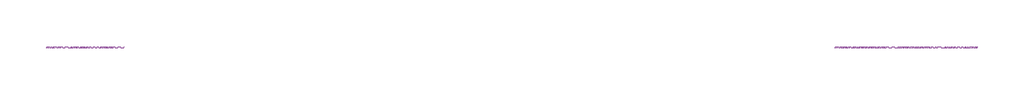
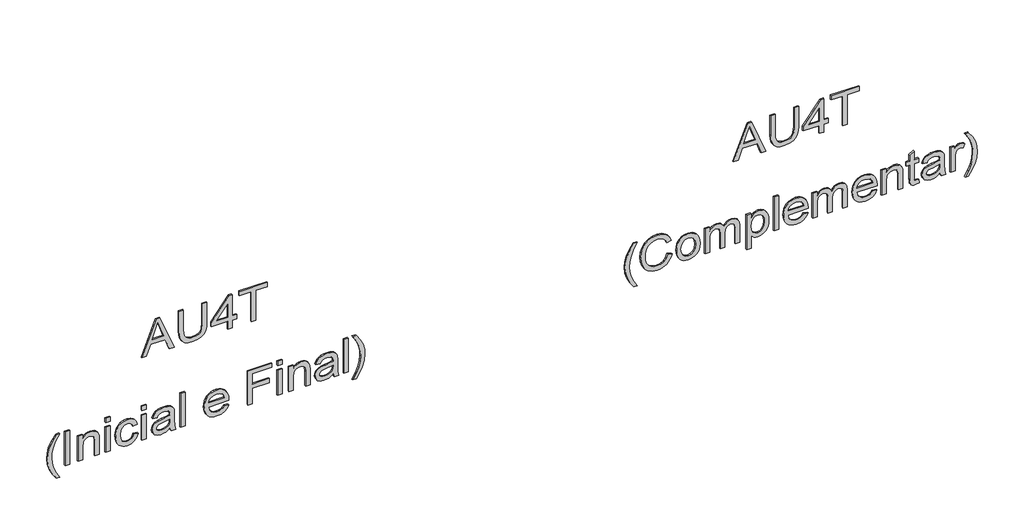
# One storey, part 5 of 14: 2 proxies.
"""IFC4 building model written with IfcOpenShell, lengths in millimetres."""

import ifcopenshell
import ifcopenshell.guid

model = None  # the IFC model being written
_history = None  # IfcOwnerHistory: only IFC2X3 demands one
_inside = {}  # id of a spatial element -> (the spatial element, [elements in it])
_under = {}  # id of a project, library or spatial element -> (it, [spatial elements below it])
_declared = {}  # id of a project -> (the project, [libraries it declares])
_typed = {}  # id of a type object -> (the type object, [elements of that type])
_made_of = {}  # id of a material, layer set ... -> (it, [elements and type objects made of it])


def new_model(schema):
    """Start an empty IFC model of exactly this schema.

    Asked for "IFC4X3", IfcOpenShell would pick the latest addendum, in which some entities
    have other attributes; the version numbers below select the first issue.
    IFC2X3 requires an IfcOwnerHistory on every rooted entity: one is made here for all.
    """
    global model, _history
    if schema == "IFC4X3":
        model = ifcopenshell.file(schema_version=(4, 3, 0, 0))
    else:
        model = ifcopenshell.file(schema=schema)
    _inside.clear()
    _under.clear()
    _declared.clear()
    _typed.clear()
    _made_of.clear()
    _history = None
    if model.schema == "IFC2X3":
        org = make("IfcOrganization", Name="unknown")
        user = make(
            "IfcPersonAndOrganization",
            ThePerson=make("IfcPerson", FamilyName="unknown"),
            TheOrganization=org,
        )
        app = make(
            "IfcApplication",
            ApplicationDeveloper=org,
            Version="unknown",
            ApplicationFullName="unknown",
            ApplicationIdentifier="unknown",
        )
        _history = make(
            "IfcOwnerHistory",
            OwningUser=user,
            OwningApplication=app,
            ChangeAction="ADDED",
            CreationDate=0,
        )
    return model


def make(cls, **values):
    """One entity of the class cls with the attributes given. An attribute that is None is left unset."""
    return model.create_entity(
        cls, **{name: value for name, value in values.items() if value is not None}
    )


def rooted(cls, **values):
    """An entity with a GlobalId (a new one), such as an element, a storey or a relation."""
    return make(cls, GlobalId=ifcopenshell.guid.new(), OwnerHistory=_history, **values)


def si_unit(unit_type, name, prefix=None):
    """IfcSIUnit, for example si_unit("LENGTHUNIT", "METRE", prefix="MILLI")."""
    return make("IfcSIUnit", UnitType=unit_type, Prefix=prefix, Name=name)


def assignment(units):
    """IfcUnitAssignment: the units of a project."""
    return None if units is None else make("IfcUnitAssignment", Units=units)


def point(xyz):
    """IfcCartesianPoint."""
    return None if xyz is None else make("IfcCartesianPoint", Coordinates=xyz)


def direction(xyz):
    """IfcDirection."""
    return None if xyz is None else make("IfcDirection", DirectionRatios=xyz)


def frame(location, z_axis=None, x_axis=None):
    """IfcAxis2Placement3D, a coordinate frame: its origin and axes. An axis left out is left unset."""
    return make(
        "IfcAxis2Placement3D",
        Location=point(location),
        Axis=direction(z_axis),
        RefDirection=direction(x_axis),
    )


def origin():
    """The frame at (0, 0, 0) with its axes left unset."""
    return frame((0.0, 0.0, 0.0))


def place(relative_to, where):
    """IfcLocalPlacement: puts the frame where relative to a parent placement (None: the world)."""
    return make(
        "IfcLocalPlacement", PlacementRelTo=relative_to, RelativePlacement=where
    )


def context(
    kind, dimensions, precision=None, world=None, true_north=None, identifier=None
):
    """IfcGeometricRepresentationContext, for example the 3D "Model" context."""
    return make(
        "IfcGeometricRepresentationContext",
        ContextIdentifier=identifier,
        ContextType=kind,
        CoordinateSpaceDimension=dimensions,
        Precision=precision,
        WorldCoordinateSystem=world,
        TrueNorth=true_north,
    )


def project(units=None, contexts=None):
    """IfcProject with its units and contexts."""
    return rooted(
        "IfcProject",
        Name="project",
        RepresentationContexts=contexts,
        UnitsInContext=assignment(units),
    )


def spatial(cls, under=None, at=None, **own):
    """A site, building, storey or space (cls), placed at a placement, below another one or the project."""
    s = rooted(cls, ObjectPlacement=at, **own)
    if under is not None:
        _under.setdefault(under.id(), (under, []))[1].append(s)
    return s


def polyline(points):
    """IfcPolyline through the points."""
    return make("IfcPolyline", Points=[point(p) for p in points])


def outline(outer, holes=None, kind="AREA"):
    """IfcArbitraryClosedProfileDef: a profile drawn as a closed curve; with holes, ...WithVoids."""
    if holes is None:
        return make("IfcArbitraryClosedProfileDef", ProfileType=kind, OuterCurve=outer)
    return make(
        "IfcArbitraryProfileDefWithVoids",
        ProfileType=kind,
        OuterCurve=outer,
        InnerCurves=holes,
    )


def extrude(swept, where, along, depth):
    """IfcExtrudedAreaSolid: the profile swept, set in the frame where, extruded along a direction by depth."""
    return make(
        "IfcExtrudedAreaSolid",
        SweptArea=swept,
        Position=where,
        ExtrudedDirection=direction(along),
        Depth=depth,
    )


def shape(context_of_items, identifier, shape_type, items):
    """IfcShapeRepresentation: the items that make up one representation, for example the "Body"."""
    return make(
        "IfcShapeRepresentation",
        ContextOfItems=context_of_items,
        RepresentationIdentifier=identifier,
        RepresentationType=shape_type,
        Items=items,
    )


def made_of(thing, what):
    """Note that an element or type object is made of a material, layer set ...; save() writes the relation."""
    if what is not None:
        _made_of.setdefault(what.id(), (what, []))[1].append(thing)
    return thing


def element(
    cls,
    number,
    at=None,
    inside=None,
    cuts=None,
    type_object=None,
    material=None,
    context=None,
    identifier="Body",
    shape_type=None,
    held_by="IfcProductDefinitionShape",
    body=None,
    shapes=None,
    **own,
):
    """One element of the class cls, such as IfcWall. Its Tag is "e" and its number.

    at: its placement. inside: the storey or other place that contains it. cuts: it is an
    opening in that element (IfcRelVoidsElement). A single representation is given by context,
    identifier, shape_type and body (its items); several are given by shapes. held_by: the class
    of the entity that holds the representations. save() writes the other relations.
    """
    e = rooted(cls, Tag="e%d" % number, ObjectPlacement=at, **own)
    if body is not None:
        shapes = [shape(context, identifier, shape_type, body)]
    if shapes is not None:
        e.Representation = make(held_by, Representations=shapes)
    if inside is not None:
        _inside.setdefault(inside.id(), (inside, []))[1].append(e)
    if cuts is not None:
        rooted(
            "IfcRelVoidsElement", RelatingBuildingElement=cuts, RelatedOpeningElement=e
        )
    if type_object is not None:
        _typed.setdefault(type_object.id(), (type_object, []))[1].append(e)
    return made_of(e, material)


def aggregate(whole, parts):
    """IfcRelAggregates: a whole, such as a stair, and the parts it consists of."""
    return rooted("IfcRelAggregates", RelatingObject=whole, RelatedObjects=parts)


def save(model, path):
    """Write the relations noted so far, then the file.

    IfcRelAggregates (storeys below a building ...), IfcRelContainedInSpatialStructure (elements
    in a storey), IfcRelDefinesByType, IfcRelAssociatesMaterial and IfcRelDeclares: one each for
    every whole, place, type object, material and project.
    """
    for whole, parts in _under.values():
        aggregate(whole, parts)
    for where, things in _inside.values():
        rooted(
            "IfcRelContainedInSpatialStructure",
            RelatedElements=things,
            RelatingStructure=where,
        )
    for kind, things in _typed.values():
        rooted("IfcRelDefinesByType", RelatedObjects=things, RelatingType=kind)
    for what, things in _made_of.values():
        rooted("IfcRelAssociatesMaterial", RelatedObjects=things, RelatingMaterial=what)
    for by, libraries in _declared.values():
        rooted("IfcRelDeclares", RelatingContext=by, RelatedDefinitions=libraries)
    model.write(path)


model = new_model("IFC4")

# Units and contexts
model_context = context("Model", 3, world=origin())
ifc_project = project(units=[si_unit("LENGTHUNIT", "METRE", prefix="MILLI")], contexts=[model_context])

# Site, building, storey
site = spatial("IfcSite", under=ifc_project)
building = spatial("IfcBuilding", under=site)
storey = spatial("IfcBuildingStorey", under=building, Name="04 - Marelli - Planta Baixa - Painéis de Vidro", Elevation=36000.0)

# Proxies
placement = place(None, origin())
element("IfcBuildingElementProxy", 1, Name="300mm Arial", ObjectType="300mm Arial", at=placement, inside=storey, context=model_context, shape_type="SweptSolid", body=[
    extrude(outline(polyline([(42065.9244535, 33333.7166072), (42065.9244535, 33373.5214391), (42160.1022443, 33407.9551938), (42160.1022443, 33532.078579), (42065.9244535, 33566.5859102), (42065.9244535, 33606.390742), (42367.293384, 33486.0933296), (42367.293384, 33454.0140196), (42065.9244535, 33333.7166072)]), holes=[polyline([(42197.7733606, 33421.7875569), (42278.3395176, 33451.2916929), (42329.6222677, 33470.0536746), (42271.8647944, 33491.1701012), (42197.7733606, 33518.3197924), (42197.7733606, 33421.7875569)])]), frame((0.0, 8778.3159498, 0.0), z_axis=(0.0, 1.0, 0.0), x_axis=(0.0, 0.0, 1.0)), (0.0, 0.0, 1.0), 10.0),
    extrude(outline(polyline([(42367.293384, 33844.4103929), (42194.7567282, 33844.4103929), (42147.5942565, 33839.6463211), (42130.8556257, 33833.6912313), (42118.6787316, 33825.3541056), (42110.0197092, 33814.2210767), (42103.8346931, 33799.8782774), (42098.8866803, 33761.5633676), (42101.3882779, 33737.3935205), (42108.8930706, 33717.2703754), (42121.0055853, 33701.8377257), (42137.3303488, 33691.7393649), (42160.9023876, 33686.1659527), (42194.7567282, 33684.3081486), (42367.293384, 33684.3081486), (42367.293384, 33646.6370323), (42193.4323531, 33646.6370323), (42150.6568741, 33649.4973148), (42117.9797559, 33658.0781624), (42093.6167707, 33673.3452652), (42075.783691, 33696.2643135), (42064.8575957, 33726.8445043), (42061.215564, 33765.0950348), (42065.4002217, 33804.2008909), (42077.9541948, 33834.9926138), (42097.176029, 33857.5253861), (42121.3642702, 33871.8543898), (42152.7170132, 33879.5247294), (42193.4323531, 33882.0815092), (42367.293384, 33882.0815092), (42367.293384, 33844.4103929)])), frame((0.0, 8778.3159498, 0.0), z_axis=(0.0, 1.0, 0.0), x_axis=(0.0, 0.0, 1.0)), (0.0, 0.0, 1.0), 10.0),
    extrude(outline(polyline([(42065.9244535, 34056.3104221), (42065.9244535, 34093.9815385), (42136.5577966, 34093.9815385), (42136.5577966, 34131.6526548), (42174.2289129, 34131.6526548), (42174.2289129, 34093.9815385), (42362.5844944, 34093.9815385), (42362.5844944, 34065.7282012), (42174.2289129, 33919.7526255), (42136.5577966, 33919.7526255), (42136.5577966, 34056.3104221), (42065.9244535, 34056.3104221)]), holes=[polyline([(42174.2289129, 34056.3104221), (42174.2289129, 33966.1057569), (42290.6267762, 34056.3104221), (42174.2289129, 34056.3104221)])]), frame((0.0, 8778.3159498, 0.0), z_axis=(0.0, 1.0, 0.0), x_axis=(0.0, 0.0, 1.0)), (0.0, 0.0, 1.0), 10.0),
    extrude(outline(polyline([(42065.9244535, 34254.0837828), (42065.9244535, 34291.7548991), (42329.6222677, 34291.7548991), (42329.6222677, 34390.6415794), (42367.293384, 34390.6415794), (42367.293384, 34155.1971024), (42329.6222677, 34155.1971024), (42329.6222677, 34254.0837828), (42065.9244535, 34254.0837828)])), frame((0.0, 8778.3159498, 0.0), z_axis=(0.0, 1.0, 0.0), x_axis=(0.0, 0.0, 1.0)), (0.0, 0.0, 1.0), 10.0),
    extrude(outline(polyline([(41249.3155348, 32615.3902234), (41249.3155348, 32643.6435607), (41297.5540614, 32614.8016122), (41345.8109821, 32594.2002205), (41394.0862969, 32581.8393855), (41442.3800058, 32577.7191071), (41480.2534572, 32580.091946), (41517.9429677, 32587.2104626), (41575.7740173, 32608.4004655), (41635.4444769, 32643.6435607), (41635.4444769, 32615.3902234), (41584.934279, 32580.6989513), (41534.2033518, 32556.3819514), (41489.4137189, 32544.131481), (41442.600735, 32540.0479908), (41389.2210575, 32545.5110385), (41337.68079, 32561.9001813), (41290.2791949, 32586.1987871), (41249.3155348, 32615.3902234)])), frame((0.0, 8778.3159498, 0.0), z_axis=(0.0, 1.0, 0.0), x_axis=(0.0, 0.0, 1.0)), (0.0, 0.0, 1.0), 10.0),
    extrude(outline(polyline([(32728.4035724, 8778.3159498), (32690.732456, 8778.3159498), (32690.732456, 8788.3159498), (32728.4035724, 8788.3159498), (32728.4035724, 8778.3159498)])), frame((0.0, 0.0, 41334.0755465), z_axis=(0.0, 0.0, 1.0), x_axis=(1.0, 0.0, 0.0)), (0.0, 0.0, 1.0), 301.3689304),
    extrude(outline(polyline([(41334.0755465, 32799.0369154), (41334.0755465, 32836.7080317), (41451.5034793, 32836.7080317), (41486.2131456, 32841.003054), (41498.5877762, 32846.3718319), (41507.6422718, 32853.8881209), (41518.7339139, 32872.6960879), (41522.431128, 32894.7598106), (41520.7848561, 32908.6565529), (41515.8460403, 32920.6219148), (41508.1481095, 32929.9569205), (41498.2244927, 32935.962594), (41464.8943839, 32940.3036016), (41334.0755465, 32940.3036016), (41334.0755465, 32977.9747179), (41469.9711555, 32977.9747179), (41506.391473, 32975.9881551), (41534.0929872, 32964.6941779), (41544.6328064, 32954.5958171), (41552.9285454, 32940.4139662), (41558.3088196, 32923.4086209), (41560.1022443, 32904.8397772), (41557.8765582, 32883.8613065), (41551.1995, 32865.513192), (41540.0710697, 32849.7954337), (41524.4912672, 32836.7080317), (41555.3933548, 32836.7080317), (41555.3933548, 32799.0369154), (41334.0755465, 32799.0369154)])), frame((0.0, 8778.3159498, 0.0), z_axis=(0.0, 1.0, 0.0), x_axis=(0.0, 0.0, 1.0)), (0.0, 0.0, 1.0), 10.0),
    extrude(outline(polyline([(33067.4436191, 8778.3159498), (33029.7725028, 8778.3159498), (33029.7725028, 8788.3159498), (33067.4436191, 8788.3159498), (33067.4436191, 8778.3159498)])), frame((0.0, 0.0, 41597.7733606), z_axis=(0.0, 0.0, 1.0), x_axis=(1.0, 0.0, 0.0)), (0.0, 0.0, 1.0), 37.6711163),
    extrude(outline(polyline([(33067.4436191, 8778.3159498), (33029.7725028, 8778.3159498), (33029.7725028, 8788.3159498), (33067.4436191, 8788.3159498), (33067.4436191, 8778.3159498)])), frame((0.0, 0.0, 41334.0755465), z_axis=(0.0, 0.0, 1.0), x_axis=(1.0, 0.0, 0.0)), (0.0, 0.0, 1.0), 221.3178083),
    extrude(outline(polyline([(41414.1266686, 33265.2169797), (41393.2493654, 33258.7882419), (41378.5892679, 33247.1539738), (41369.9256469, 33231.160304), (41367.0377732, 33211.6533612), (41371.6638893, 33187.6214699), (41385.5422376, 33168.647956), (41409.6477053, 33156.3147121), (41444.9551798, 33152.2036308), (41479.7936048, 33156.4066826), (41503.816299, 33169.015838), (41517.7774208, 33188.3388398), (41522.431128, 33212.6834308), (41520.0674862, 33229.1737412), (41512.9765607, 33243.0336954), (41501.1951398, 33253.6746821), (41484.7600117, 33260.5080902), (41489.4689012, 33298.1792065), (41519.4512838, 33287.9244959), (41541.7081445, 33269.6683519), (41555.5037194, 33244.2201148), (41560.1022443, 33212.3891252), (41556.7545181, 33185.7452717), (41546.7113397, 33161.1431633), (41529.9635118, 33140.5785598), (41506.5018376, 33126.0472209), (41477.448357, 33117.4111911), (41443.9251102, 33114.5325145), (41417.8675687, 33116.2178739), (41395.024396, 33121.2739521), (41375.3955923, 33129.700749), (41358.9811575, 33141.4982647), (41346.0248135, 33156.0732895), (41336.7702821, 33172.8326137), (41331.2175632, 33191.7762372), (41329.3666569, 33212.90416), (41334.6733547, 33245.535293), (41350.593448, 33272.648196), (41375.9129264, 33292.3850651), (41409.4177791, 33302.888096), (41414.1266686, 33265.2169797)])), frame((0.0, 8778.3159498, 0.0), z_axis=(0.0, 1.0, 0.0), x_axis=(0.0, 0.0, 1.0)), (0.0, 0.0, 1.0), 10.0),
    extrude(outline(polyline([(33373.5214391, 8778.3159498), (33335.8503228, 8778.3159498), (33335.8503228, 8788.3159498), (33373.5214391, 8788.3159498), (33373.5214391, 8778.3159498)])), frame((0.0, 0.0, 41334.0755465), z_axis=(0.0, 0.0, 1.0), x_axis=(1.0, 0.0, 0.0)), (0.0, 0.0, 1.0), 221.3178083),
    extrude(outline(polyline([(33373.5214391, 8778.3159498), (33335.8503228, 8778.3159498), (33335.8503228, 8788.3159498), (33373.5214391, 8788.3159498), (33373.5214391, 8778.3159498)])), frame((0.0, 0.0, 41597.7733606), z_axis=(0.0, 0.0, 1.0), x_axis=(1.0, 0.0, 0.0)), (0.0, 0.0, 1.0), 37.6711163),
    extrude(outline(polyline([(41362.3288837, 33571.2947997), (41334.0755465, 33580.7125788), (41334.0755465, 33618.3836951), (41365.7501862, 33610.8789024), (41431.1963932, 33608.965916), (41478.0645594, 33608.965916), (41511.0267861, 33607.126506), (41525.1442577, 33602.5831634), (41536.5945848, 33595.5750114), (41545.856014, 33585.0076011), (41553.406792, 33569.7864835), (41558.4283812, 33549.598959), (41560.1022443, 33524.1323279), (41558.207652, 33497.5804449), (41552.5238752, 33474.4314704), (41543.3452194, 33455.5039417), (41530.9659903, 33441.6163964), (41514.7791825, 33431.8583265), (41494.1777908, 33425.319224), (41489.4689012, 33462.9903403), (41505.1314772, 33470.4767389), (41515.1838527, 33481.1637109), (41520.6193092, 33496.8354839), (41522.431128, 33519.2762856), (41519.7088012, 33543.5197091), (41511.5418209, 33560.9205274), (41500.5421493, 33568.7012316), (41483.7299421, 33571.2947997), (41475.3422326, 33571.0740705), (41468.3524747, 33544.2554731), (41462.3927864, 33505.7382282), (41456.7274037, 33473.1438834), (41444.3665686, 33446.7667443), (41434.8752131, 33436.1625458), (41422.7351073, 33427.8208216), (41408.5532564, 33422.4129563), (41392.9366657, 33420.6103345), (41367.6079903, 33425.3836034), (41347.2457219, 33439.70341), (41333.8364232, 33462.925961), (41329.3666569, 33494.4074627), (41331.224461, 33515.2755689), (41336.7978732, 33534.7641176), (41346.896234, 33553.2961731), (41362.3288837, 33571.2947997)]), holes=[polyline([(41437.6711163, 33571.2947997), (41427.0025384, 33571.0740705), (41410.0799667, 33569.5841484), (41397.8662844, 33565.1143822), (41386.0112871, 33555.0344155), (41376.0508821, 33540.5398649), (41369.2910505, 33522.6607999), (41367.0377732, 33502.4272902), (41369.0795183, 33483.3434117), (41375.2047535, 33469.5018516), (41384.3834093, 33461.086551), (41395.5854161, 33458.2814508), (41410.0799667, 33463.4317987), (41420.0127805, 33478.1102903), (41426.1196217, 33510.5206941), (41437.6711163, 33571.2947997)])]), frame((0.0, 8778.3159498, 0.0), z_axis=(0.0, 1.0, 0.0), x_axis=(0.0, 0.0, 1.0)), (0.0, 0.0, 1.0), 10.0),
    extrude(outline(polyline([(33698.4348172, 8778.3159498), (33660.7637009, 8778.3159498), (33660.7637009, 8788.3159498), (33698.4348172, 8788.3159498), (33698.4348172, 8778.3159498)])), frame((0.0, 0.0, 41334.0755465), z_axis=(0.0, 0.0, 1.0), x_axis=(1.0, 0.0, 0.0)), (0.0, 0.0, 1.0), 301.3689304),
    extrude(outline(polyline([(41400.0, 34027.6156265), (41385.1191733, 34017.0574133), (41374.9104479, 34003.3354148), (41369.0059419, 33986.4496313), (41367.0377732, 33966.4000625), (41371.2868103, 33939.7378149), (41384.0339214, 33917.8764274), (41404.7640718, 33902.7288862), (41432.9622268, 33896.2081778), (41432.9622268, 34065.507472), (41443.1157698, 34065.7282012), (41469.3687487, 34063.9416743), (41492.5039277, 34058.5820935), (41512.5213067, 34049.6494588), (41529.4208859, 34037.1437702), (41542.8439802, 34021.8237844), (41552.4319047, 34004.4482579), (41558.1846594, 33985.0171907), (41560.1022443, 33963.530583), (41558.1800609, 33941.3289046), (41552.4135106, 33921.2977299), (41542.8025935, 33903.437059), (41529.3473095, 33887.746892), (41512.4109422, 33874.9675911), (41492.3567749, 33865.8395191), (41469.1848077, 33860.3626759), (41442.8950406, 33858.5370615), (41417.467497, 33860.3442818), (41395.0427901, 33865.7659427), (41375.62092, 33874.8020443), (41359.2018867, 33887.4525864), (41346.1489737, 33903.1841402), (41336.8254644, 33921.4632768), (41331.2313588, 33942.2899963), (41329.3666569, 33965.6642985), (41333.6892704, 34001.3212609), (41346.6571107, 34030.0068595), (41367.4608375, 34051.2428477), (41395.2911105, 34064.5509788), (41400.0, 34027.6156265)]), holes=[polyline([(41470.6333431, 33896.2081778), (41491.8693312, 33902.3977924), (41508.3412476, 33916.9935106), (41518.9086579, 33937.9903754), (41522.431128, 33963.3834302), (41518.0165441, 33991.011368), (41504.7727922, 34012.9739231), (41490.535759, 34022.9619193), (41470.6333431, 34028.0570849), (41470.6333431, 33896.2081778)])]), frame((0.0, 8778.3159498, 0.0), z_axis=(0.0, 1.0, 0.0), x_axis=(0.0, 0.0, 1.0)), (0.0, 0.0, 1.0), 10.0),
    extrude(outline(polyline([(41334.0755465, 34225.8304455), (41334.0755465, 34263.5015618), (41470.6333431, 34263.5015618), (41470.6333431, 34404.768248), (41508.3044594, 34404.768248), (41508.3044594, 34263.5015618), (41597.7733606, 34263.5015618), (41597.7733606, 34428.3126957), (41635.4444769, 34428.3126957), (41635.4444769, 34225.8304455), (41334.0755465, 34225.8304455)])), frame((0.0, 8778.3159498, 0.0), z_axis=(0.0, 1.0, 0.0), x_axis=(0.0, 0.0, 1.0)), (0.0, 0.0, 1.0), 10.0),
    extrude(outline(polyline([(34513.0727074, 8778.3159498), (34475.4015911, 8778.3159498), (34475.4015911, 8788.3159498), (34513.0727074, 8788.3159498), (34513.0727074, 8778.3159498)])), frame((0.0, 0.0, 41597.7733606), z_axis=(0.0, 0.0, 1.0), x_axis=(1.0, 0.0, 0.0)), (0.0, 0.0, 1.0), 37.6711163),
    extrude(outline(polyline([(34513.0727074, 8778.3159498), (34475.4015911, 8778.3159498), (34475.4015911, 8788.3159498), (34513.0727074, 8788.3159498), (34513.0727074, 8778.3159498)])), frame((0.0, 0.0, 41334.0755465), z_axis=(0.0, 0.0, 1.0), x_axis=(1.0, 0.0, 0.0)), (0.0, 0.0, 1.0), 221.3178083),
    extrude(outline(polyline([(41334.0755465, 34569.5793818), (41334.0755465, 34607.2504981), (41451.5034793, 34607.2504981), (41486.2131456, 34611.5455204), (41498.5877762, 34616.9142983), (41507.6422718, 34624.4305873), (41518.7339139, 34643.2385543), (41522.431128, 34665.302277), (41520.7848561, 34679.1990193), (41515.8460403, 34691.1643812), (41508.1481095, 34700.4993868), (41498.2244927, 34706.5050604), (41464.8943839, 34710.846068), (41334.0755465, 34710.846068), (41334.0755465, 34748.5171843), (41469.9711555, 34748.5171843), (41506.391473, 34746.5306215), (41534.0929872, 34735.2366442), (41544.6328064, 34725.1382835), (41552.9285454, 34710.9564326), (41558.3088196, 34693.9510873), (41560.1022443, 34675.3822436), (41557.8765582, 34654.4037729), (41551.1995, 34636.0556583), (41540.0710697, 34620.3379001), (41524.4912672, 34607.2504981), (41555.3933548, 34607.2504981), (41555.3933548, 34569.5793818), (41334.0755465, 34569.5793818)])), frame((0.0, 8778.3159498, 0.0), z_axis=(0.0, 1.0, 0.0), x_axis=(0.0, 0.0, 1.0)), (0.0, 0.0, 1.0), 10.0),
    extrude(outline(polyline([(41362.3288837, 34941.5816553), (41334.0755465, 34950.9994344), (41334.0755465, 34988.6705507), (41365.7501862, 34981.165758), (41431.1963932, 34979.2527716), (41478.0645594, 34979.2527716), (41511.0267861, 34977.4133617), (41525.1442577, 34972.870019), (41536.5945848, 34965.861867), (41545.856014, 34955.2944567), (41553.406792, 34940.0733392), (41558.4283812, 34919.8858147), (41560.1022443, 34894.4191836), (41558.207652, 34867.8673006), (41552.5238752, 34844.718326), (41543.3452194, 34825.7907974), (41530.9659903, 34811.903252), (41514.7791825, 34802.1451821), (41494.1777908, 34795.6060797), (41489.4689012, 34833.277196), (41505.1314772, 34840.7635946), (41515.1838527, 34851.4505665), (41520.6193092, 34867.1223395), (41522.431128, 34889.5631412), (41519.7088012, 34913.8065647), (41511.5418209, 34931.2073831), (41500.5421493, 34938.9880873), (41483.7299421, 34941.5816553), (41475.3422326, 34941.3609261), (41468.3524747, 34914.5423287), (41462.3927864, 34876.0250838), (41456.7274037, 34843.430739), (41444.3665686, 34817.0536), (41434.8752131, 34806.4494015), (41422.7351073, 34798.1076772), (41408.5532564, 34792.6998119), (41392.9366657, 34790.8971901), (41367.6079903, 34795.670459), (41347.2457219, 34809.9902657), (41333.8364232, 34833.2128166), (41329.3666569, 34864.6943183), (41331.224461, 34885.5624245), (41336.7978732, 34905.0509732), (41346.896234, 34923.5830287), (41362.3288837, 34941.5816553)]), holes=[polyline([(41437.6711163, 34941.5816553), (41427.0025384, 34941.3609261), (41410.0799667, 34939.8710041), (41397.8662844, 34935.4012378), (41386.0112871, 34925.3212712), (41376.0508821, 34910.8267205), (41369.2910505, 34892.9476556), (41367.0377732, 34872.7141458), (41369.0795183, 34853.6302673), (41375.2047535, 34839.7887073), (41384.3834093, 34831.3734066), (41395.5854161, 34828.5683064), (41410.0799667, 34833.7186544), (41420.0127805, 34848.397146), (41426.1196217, 34880.8075497), (41437.6711163, 34941.5816553)])]), frame((0.0, 8778.3159498, 0.0), z_axis=(0.0, 1.0, 0.0), x_axis=(0.0, 0.0, 1.0)), (0.0, 0.0, 1.0), 10.0),
    extrude(outline(polyline([(35068.7216729, 8778.3159498), (35031.0505566, 8778.3159498), (35031.0505566, 8788.3159498), (35068.7216729, 8788.3159498), (35068.7216729, 8778.3159498)])), frame((0.0, 0.0, 41334.0755465), z_axis=(0.0, 0.0, 1.0), x_axis=(1.0, 0.0, 0.0)), (0.0, 0.0, 1.0), 301.3689304),
    extrude(outline(polyline([(41249.3155348, 35134.6461264), (41290.2791949, 35163.699607), (41337.68079, 35188.0258039), (41389.2210575, 35204.4977202), (41442.600735, 35209.988359), (41489.4137189, 35205.9048689), (41534.2033518, 35193.6543984), (41584.934279, 35169.3373986), (41635.4444769, 35134.6461264), (41635.4444769, 35106.3927892), (41575.1854061, 35141.8566135), (41546.8400984, 35153.8311725), (41517.2807801, 35162.8258872), (41479.9775458, 35169.9444038), (41442.3800058, 35172.3172427), (41394.0862969, 35168.1969644), (41345.8109821, 35155.8361293), (41297.5540614, 35135.2347376), (41249.3155348, 35106.3927892), (41249.3155348, 35134.6461264)])), frame((0.0, 8778.3159498, 0.0), z_axis=(0.0, 1.0, 0.0), x_axis=(0.0, 0.0, 1.0)), (0.0, 0.0, 1.0), 10.0),
])
element("IfcBuildingElementProxy", 2, Name="300mm Arial", ObjectType="300mm Arial", at=placement, inside=storey, context=model_context, shape_type="SweptSolid", body=[
    extrude(outline(polyline([(42065.9244535, 38305.46327), (42065.9244535, 38345.2681019), (42160.1022443, 38379.7018566), (42160.1022443, 38503.8252418), (42065.9244535, 38538.3325729), (42065.9244535, 38578.1374048), (42367.293384, 38457.8399924), (42367.293384, 38425.7606824), (42065.9244535, 38305.46327)]), holes=[polyline([(42197.7733606, 38393.5342196), (42278.3395176, 38423.0383556), (42329.6222677, 38441.8003374), (42271.8647944, 38462.9167639), (42197.7733606, 38490.0664552), (42197.7733606, 38393.5342196)])]), frame((0.0, 8778.3159498, 0.0), z_axis=(0.0, 1.0, 0.0), x_axis=(0.0, 0.0, 1.0)), (0.0, 0.0, 1.0), 10.0),
    extrude(outline(polyline([(42367.293384, 38816.1570557), (42194.7567282, 38816.1570557), (42147.5942565, 38811.3929839), (42130.8556257, 38805.4378941), (42118.6787316, 38797.1007683), (42110.0197092, 38785.9677395), (42103.8346931, 38771.6249402), (42098.8866803, 38733.3100304), (42101.3882779, 38709.1401833), (42108.8930706, 38689.0170382), (42121.0055853, 38673.5843885), (42137.3303488, 38663.4860277), (42160.9023876, 38657.9126155), (42194.7567282, 38656.0548114), (42367.293384, 38656.0548114), (42367.293384, 38618.3836951), (42193.4323531, 38618.3836951), (42150.6568741, 38621.2439776), (42117.9797559, 38629.8248251), (42093.6167707, 38645.0919279), (42075.783691, 38668.0109762), (42064.8575957, 38698.5911671), (42061.215564, 38736.8416975), (42065.4002217, 38775.9475536), (42077.9541948, 38806.7392766), (42097.176029, 38829.2720488), (42121.3642702, 38843.6010525), (42152.7170132, 38851.2713921), (42193.4323531, 38853.828172), (42367.293384, 38853.828172), (42367.293384, 38816.1570557)])), frame((0.0, 8778.3159498, 0.0), z_axis=(0.0, 1.0, 0.0), x_axis=(0.0, 0.0, 1.0)), (0.0, 0.0, 1.0), 10.0),
    extrude(outline(polyline([(42065.9244535, 39028.0570849), (42065.9244535, 39065.7282012), (42136.5577966, 39065.7282012), (42136.5577966, 39103.3993175), (42174.2289129, 39103.3993175), (42174.2289129, 39065.7282012), (42362.5844944, 39065.7282012), (42362.5844944, 39037.474864), (42174.2289129, 38891.4992883), (42136.5577966, 38891.4992883), (42136.5577966, 39028.0570849), (42065.9244535, 39028.0570849)]), holes=[polyline([(42174.2289129, 39028.0570849), (42174.2289129, 38937.8524197), (42290.6267762, 39028.0570849), (42174.2289129, 39028.0570849)])]), frame((0.0, 8778.3159498, 0.0), z_axis=(0.0, 1.0, 0.0), x_axis=(0.0, 0.0, 1.0)), (0.0, 0.0, 1.0), 10.0),
    extrude(outline(polyline([(42065.9244535, 39225.8304455), (42065.9244535, 39263.5015618), (42329.6222677, 39263.5015618), (42329.6222677, 39362.3882421), (42367.293384, 39362.3882421), (42367.293384, 39126.9437652), (42329.6222677, 39126.9437652), (42329.6222677, 39225.8304455), (42065.9244535, 39225.8304455)])), frame((0.0, 8778.3159498, 0.0), z_axis=(0.0, 1.0, 0.0), x_axis=(0.0, 0.0, 1.0)), (0.0, 0.0, 1.0), 10.0),
    extrude(outline(polyline([(41249.3155348, 37469.4146478), (41249.3155348, 37497.667985), (41297.5540614, 37468.8260366), (41345.8109821, 37448.2246448), (41394.0862969, 37435.8638098), (41442.3800058, 37431.7435314), (41480.2534572, 37434.1163703), (41517.9429677, 37441.2348869), (41575.7740173, 37462.4248898), (41635.4444769, 37497.667985), (41635.4444769, 37469.4146478), (41584.934279, 37434.7233756), (41534.2033518, 37410.4063757), (41489.4137189, 37398.1559053), (41442.600735, 37394.0724151), (41389.2210575, 37399.5354628), (41337.68079, 37415.9246057), (41290.2791949, 37440.2232114), (41249.3155348, 37469.4146478)])), frame((0.0, 8778.3159498, 0.0), z_axis=(0.0, 1.0, 0.0), x_axis=(0.0, 0.0, 1.0)), (0.0, 0.0, 1.0), 10.0),
    extrude(outline(polyline([(41441.2027835, 37751.94802), (41408.9395325, 37739.761929), (41385.7261786, 37719.9790747), (41371.7098746, 37693.7766796), (41367.0377732, 37662.331966), (41370.4682728, 37635.3570187), (41380.7597717, 37610.3502401), (41397.9858461, 37589.491331), (41422.2200725, 37574.9599922), (41452.3128197, 37566.4343269), (41487.1144565, 37563.5924385), (41515.5333406, 37565.9928685), (41543.1060961, 37573.1941586), (41567.4966724, 37586.3183488), (41586.3690188, 37606.4874792), (41598.4539423, 37633.0669533), (41602.4822501, 37665.4221748), (41598.8494154, 37693.491571), (41587.9509113, 37716.3370429), (41569.1061561, 37734.1793197), (41541.6345681, 37747.2391305), (41550.6108888, 37784.9102468), (41588.4291579, 37768.2727836), (41603.751443, 37756.4706693), (41616.6824952, 37742.3463), (41626.9510013, 37726.16639), (41634.2856486, 37708.1976538), (41640.1533665, 37666.8937028), (41635.6192209, 37629.0386455), (41622.0167841, 37594.4945261), (41599.6771499, 37565.3674691), (41568.9314122, 37543.763599), (41530.9843844, 37530.3818914), (41487.0408801, 37525.9213222), (41445.3782441, 37529.8668566), (41406.4747231, 37541.7034598), (41373.3837376, 37561.0908409), (41349.1587083, 37587.6887092), (41334.3146698, 37622.3891784), (41329.3666569, 37666.0843624), (41331.0014325, 37688.50677), (41335.9057594, 37709.1265558), (41344.0796375, 37727.9437199), (41355.5230668, 37744.9582621), (41370.0796975, 37759.8344903), (41387.5931797, 37772.2367121), (41408.0635135, 37782.1649274), (41431.4906988, 37789.6191364), (41441.2027835, 37751.94802)])), frame((0.0, 8778.3159498, 0.0), z_axis=(0.0, 1.0, 0.0), x_axis=(0.0, 0.0, 1.0)), (0.0, 0.0, 1.0), 10.0),
    extrude(outline(polyline([(41444.7344506, 37827.2902527), (41418.4124939, 37828.9986047), (41395.3646869, 37834.1236607), (41375.5910296, 37842.6654208), (41359.0915221, 37854.6238849), (41346.0868936, 37869.350661), (41336.7978732, 37886.1973571), (41331.224461, 37905.1639733), (41329.3666569, 37926.2505094), (41332.7419742, 37952.8391806), (41342.8679261, 37977.2757421), (41359.1007192, 37997.8495427), (41380.7965599, 38012.849931), (41409.767267, 38022.0101927), (41447.8246594, 38025.0636133), (41472.7049786, 38023.3368672), (41494.7388108, 38018.1566288), (41513.9261561, 38009.5228982), (41530.2670145, 37997.4356754), (41543.3199275, 37982.6261259), (41552.6434368, 37965.825415), (41558.2375424, 37947.0335428), (41560.1022443, 37926.2505094), (41558.5709355, 37907.4241483), (41553.9770091, 37890.0877092), (41546.3204651, 37874.2411923), (41535.6013034, 37859.8845974), (41518.830483, 37845.6245716), (41498.095734, 37835.4388389), (41473.3970566, 37829.3273992), (41444.7344506, 37827.2902527)]), holes=[polyline([(41444.808027, 37864.961369), (41478.8830968, 37869.3207706), (41503.1173232, 37882.3989755), (41517.6026768, 37902.0806623), (41522.431128, 37926.2505094), (41517.5842827, 37950.1720361), (41503.0437468, 37969.8445258), (41479.0854319, 37983.0055042), (41445.9852494, 37987.392497), (41411.1468245, 37983.0330953), (41386.535519, 37969.9548904), (41371.9122097, 37950.3099918), (41367.0377732, 37926.2505094), (41371.8846185, 37902.0806623), (41386.4251544, 37882.3989755), (41410.7145631, 37869.3207706), (41444.808027, 37864.961369)])]), frame((0.0, 8778.3159498, 0.0), z_axis=(0.0, 1.0, 0.0), x_axis=(0.0, 0.0, 1.0)), (0.0, 0.0, 1.0), 10.0),
    extrude(outline(polyline([(41334.0755465, 38067.4436191), (41334.0755465, 38105.1147354), (41445.6909438, 38105.1147354), (41471.6082304, 38106.5494752), (41490.6461236, 38110.8536945), (41504.368122, 38118.3584872), (41514.3377241, 38129.3949471), (41520.407777, 38142.7674576), (41522.431128, 38157.2804023), (41519.3961015, 38174.359324), (41510.2910222, 38185.8648334), (41495.0974958, 38192.4039358), (41473.7971282, 38194.5836366), (41334.0755465, 38194.5836366), (41334.0755465, 38232.2547529), (41459.008272, 38232.2547529), (41487.7214617, 38235.94277), (41507.3479662, 38247.006821), (41518.6603375, 38263.6442842), (41522.431128, 38284.0525379), (41520.9596, 38295.6132296), (41516.5450161, 38305.5736346), (41509.7300021, 38313.3175506), (41501.0571841, 38318.2287752), (41469.6032735, 38321.7236542), (41334.0755465, 38321.7236542), (41334.0755465, 38359.3947705), (41485.7900813, 38359.3947705), (41518.7615051, 38355.0813541), (41541.8920855, 38342.1411049), (41555.5497046, 38321.1994223), (41560.1022443, 38292.8817058), (41557.366122, 38273.3563689), (41549.1577549, 38255.7624124), (41535.4771432, 38240.0998365), (41516.3242869, 38226.368641), (41534.7643719, 38218.1648725), (41548.5875379, 38205.6200965), (41557.2235677, 38188.8262834), (41560.1022443, 38167.8754038), (41557.27875, 38148.3224757), (41548.808267, 38131.0136279), (41535.702471, 38116.4455009), (41518.9730372, 38105.1147354), (41555.3933548, 38105.1147354), (41555.3933548, 38067.4436191), (41334.0755465, 38067.4436191)])), frame((0.0, 8778.3159498, 0.0), z_axis=(0.0, 1.0, 0.0), x_axis=(0.0, 0.0, 1.0)), (0.0, 0.0, 1.0), 10.0),
    extrude(outline(polyline([(41249.3155348, 38415.9014449), (41249.3155348, 38453.5725612), (41363.5061061, 38453.5725612), (41349.9956398, 38464.213548), (41339.0419534, 38477.4481027), (41331.785481, 38492.9083436), (41329.3666569, 38510.2263885), (41332.9810975, 38534.6445559), (41343.8244193, 38557.8671069), (41361.4459669, 38577.806311), (41385.3950848, 38592.374438), (41414.2094421, 38601.2863794), (41446.4267078, 38604.2570265), (41476.7217901, 38601.6266702), (41504.4784866, 38593.7356014), (41527.9861461, 38580.6757906), (41545.5341173, 38562.5392082), (41556.4602125, 38540.2639534), (41560.1022443, 38514.7881252), (41557.4994792, 38495.6582615), (41549.6911838, 38479.6186065), (41536.6773583, 38465.8598199), (41518.4580024, 38453.5725612), (41555.3933548, 38453.5725612), (41555.3933548, 38415.9014449), (41249.3155348, 38415.9014449)]), holes=[polyline([(41442.968617, 38453.5725612), (41477.1356573, 38457.9227658), (41502.0872537, 38470.9733796), (41517.3451594, 38489.670982), (41522.431128, 38510.9621525), (41517.6486621, 38532.1705495), (41503.3012642, 38550.1783732), (41479.3521464, 38562.4840259), (41445.7645202, 38566.5859102), (41410.7237602, 38562.3828584), (41386.2412134, 38549.773703), (41371.8386333, 38531.2784357), (41367.0377732, 38509.4170481), (41371.6730864, 38487.9051484), (41385.5790258, 38469.8697336), (41409.1970499, 38457.6468543), (41442.968617, 38453.5725612)])]), frame((0.0, 8778.3159498, 0.0), z_axis=(0.0, 1.0, 0.0), x_axis=(0.0, 0.0, 1.0)), (0.0, 0.0, 1.0), 10.0),
    extrude(outline(polyline([(38684.3081486, 8778.3159498), (38646.6370323, 8778.3159498), (38646.6370323, 8788.3159498), (38684.3081486, 8788.3159498), (38684.3081486, 8778.3159498)])), frame((0.0, 0.0, 41334.0755465), z_axis=(0.0, 0.0, 1.0), x_axis=(1.0, 0.0, 0.0)), (0.0, 0.0, 1.0), 301.3689304),
    extrude(outline(polyline([(41400.0, 38895.7667195), (41385.1191733, 38885.2085062), (41374.9104479, 38871.4865078), (41369.0059419, 38854.6007242), (41367.0377732, 38834.5511555), (41371.2868103, 38807.8889079), (41384.0339214, 38786.0275203), (41404.7640718, 38770.8799791), (41432.9622268, 38764.3592708), (41432.9622268, 38933.658565), (41443.1157698, 38933.8792942), (41469.3687487, 38932.0927672), (41492.5039277, 38926.7331864), (41512.5213067, 38917.8005517), (41529.4208859, 38905.2948631), (41542.8439802, 38889.9748773), (41552.4319047, 38872.5993508), (41558.1846594, 38853.1682837), (41560.1022443, 38831.6816759), (41558.1800609, 38809.4799975), (41552.4135106, 38789.4488228), (41542.8025935, 38771.588152), (41529.3473095, 38755.8979849), (41512.4109422, 38743.1186841), (41492.3567749, 38733.9906121), (41469.1848077, 38728.5137689), (41442.8950406, 38726.6881545), (41417.467497, 38728.4953748), (41395.0427901, 38733.9170357), (41375.62092, 38742.9531372), (41359.2018867, 38755.6036793), (41346.1489737, 38771.3352331), (41336.8254644, 38789.6143697), (41331.2313588, 38810.4410892), (41329.3666569, 38833.8153915), (41333.6892704, 38869.4723538), (41346.6571107, 38898.1579524), (41367.4608375, 38919.3939406), (41395.2911105, 38932.7020718), (41400.0, 38895.7667195)]), holes=[polyline([(41470.6333431, 38764.3592708), (41491.8693312, 38770.5488853), (41508.3412476, 38785.1446035), (41518.9086579, 38806.1414684), (41522.431128, 38831.5345231), (41518.0165441, 38859.1624609), (41504.7727922, 38881.125016), (41490.535759, 38891.1130122), (41470.6333431, 38896.2081778), (41470.6333431, 38764.3592708)])]), frame((0.0, 8778.3159498, 0.0), z_axis=(0.0, 1.0, 0.0), x_axis=(0.0, 0.0, 1.0)), (0.0, 0.0, 1.0), 10.0),
    extrude(outline(polyline([(41334.0755465, 38971.5504105), (41334.0755465, 39009.2215268), (41445.6909438, 39009.2215268), (41471.6082304, 39010.6562665), (41490.6461236, 39014.9604859), (41504.368122, 39022.4652786), (41514.3377241, 39033.5017384), (41520.407777, 39046.874249), (41522.431128, 39061.3871937), (41519.3961015, 39078.4661153), (41510.2910222, 39089.9716247), (41495.0974958, 39096.5107272), (41473.7971282, 39098.690428), (41334.0755465, 39098.690428), (41334.0755465, 39136.3615443), (41459.008272, 39136.3615443), (41487.7214617, 39140.0495613), (41507.3479662, 39151.1136123), (41518.6603375, 39167.7510755), (41522.431128, 39188.1593292), (41520.9596, 39199.7200209), (41516.5450161, 39209.6804259), (41509.7300021, 39217.4243419), (41501.0571841, 39222.3355666), (41469.6032735, 39225.8304455), (41334.0755465, 39225.8304455), (41334.0755465, 39263.5015618), (41485.7900813, 39263.5015618), (41518.7615051, 39259.1881454), (41541.8920855, 39246.2478963), (41555.5497046, 39225.3062137), (41560.1022443, 39196.9884971), (41557.366122, 39177.4631602), (41549.1577549, 39159.8692038), (41535.4771432, 39144.2066278), (41516.3242869, 39130.4754324), (41534.7643719, 39122.2716639), (41548.5875379, 39109.7268878), (41557.2235677, 39092.9330748), (41560.1022443, 39071.9821951), (41557.27875, 39052.4292671), (41548.808267, 39035.1204192), (41535.702471, 39020.5522922), (41518.9730372, 39009.2215268), (41555.3933548, 39009.2215268), (41555.3933548, 38971.5504105), (41334.0755465, 38971.5504105)])), frame((0.0, 8778.3159498, 0.0), z_axis=(0.0, 1.0, 0.0), x_axis=(0.0, 0.0, 1.0)), (0.0, 0.0, 1.0), 10.0),
    extrude(outline(polyline([(41400.0, 39474.9601327), (41385.1191733, 39464.4019194), (41374.9104479, 39450.679921), (41369.0059419, 39433.7941374), (41367.0377732, 39413.7445687), (41371.2868103, 39387.0823211), (41384.0339214, 39365.2209335), (41404.7640718, 39350.0733923), (41432.9622268, 39343.552684), (41432.9622268, 39512.8519782), (41443.1157698, 39513.0727074), (41469.3687487, 39511.2861804), (41492.5039277, 39505.9265996), (41512.5213067, 39496.9939649), (41529.4208859, 39484.4882763), (41542.8439802, 39469.1682905), (41552.4319047, 39451.792764), (41558.1846594, 39432.3616969), (41560.1022443, 39410.8750891), (41558.1800609, 39388.6734107), (41552.4135106, 39368.6422361), (41542.8025935, 39350.7815652), (41529.3473095, 39335.0913981), (41512.4109422, 39322.3120973), (41492.3567749, 39313.1840253), (41469.1848077, 39307.7071821), (41442.8950406, 39305.8815677), (41417.467497, 39307.688788), (41395.0427901, 39313.1104489), (41375.62092, 39322.1465504), (41359.2018867, 39334.7970925), (41346.1489737, 39350.5286463), (41336.8254644, 39368.8077829), (41331.2313588, 39389.6345024), (41329.3666569, 39413.0088047), (41333.6892704, 39448.6657671), (41346.6571107, 39477.3513656), (41367.4608375, 39498.5873538), (41395.2911105, 39511.895485), (41400.0, 39474.9601327)]), holes=[polyline([(41470.6333431, 39343.552684), (41491.8693312, 39349.7422985), (41508.3412476, 39364.3380167), (41518.9086579, 39385.3348816), (41522.431128, 39410.7279363), (41518.0165441, 39438.3558741), (41504.7727922, 39460.3184292), (41490.535759, 39470.3064254), (41470.6333431, 39475.4015911), (41470.6333431, 39343.552684)])]), frame((0.0, 8778.3159498, 0.0), z_axis=(0.0, 1.0, 0.0), x_axis=(0.0, 0.0, 1.0)), (0.0, 0.0, 1.0), 10.0),
    extrude(outline(polyline([(41334.0755465, 39550.7438237), (41334.0755465, 39588.41494), (41451.5034793, 39588.41494), (41486.2131456, 39592.7099623), (41498.5877762, 39598.0787401), (41507.6422718, 39605.5950291), (41518.7339139, 39624.4029961), (41522.431128, 39646.4667188), (41520.7848561, 39660.3634612), (41515.8460403, 39672.3288231), (41508.1481095, 39681.6638287), (41498.2244927, 39687.6695023), (41464.8943839, 39692.0105098), (41334.0755465, 39692.0105098), (41334.0755465, 39729.6816261), (41469.9711555, 39729.6816261), (41506.391473, 39727.6950633), (41534.0929872, 39716.4010861), (41544.6328064, 39706.3027253), (41552.9285454, 39692.1208744), (41558.3088196, 39675.1155292), (41560.1022443, 39656.5466855), (41557.8765582, 39635.5682147), (41551.1995, 39617.2201002), (41540.0710697, 39601.5023419), (41524.4912672, 39588.41494), (41555.3933548, 39588.41494), (41555.3933548, 39550.7438237), (41334.0755465, 39550.7438237)])), frame((0.0, 8778.3159498, 0.0), z_axis=(0.0, 1.0, 0.0), x_axis=(0.0, 0.0, 1.0)), (0.0, 0.0, 1.0), 10.0),
    extrude(outline(polyline([(41365.4926689, 39861.5305332), (41367.0377732, 39845.1229962), (41369.576159, 39832.2839146), (41376.4555523, 39825.8459797), (41395.8797217, 39823.8594169), (41517.7222385, 39823.8594169), (41517.7222385, 39861.5305332), (41555.3933548, 39861.5305332), (41555.3933548, 39823.8594169), (41631.3241986, 39823.8594169), (41609.1777025, 39786.1883006), (41555.3933548, 39786.1883006), (41555.3933548, 39757.9349633), (41517.7222385, 39757.9349633), (41517.7222385, 39786.1883006), (41394.7760757, 39786.1883006), (41367.7919313, 39787.3287348), (41352.0281878, 39790.7500373), (41342.849532, 39796.967243), (41335.6206508, 39806.4953867), (41330.9301554, 39819.9782618), (41329.3666569, 39838.0596619), (41332.9719005, 39866.2394227), (41365.4926689, 39861.5305332)])), frame((0.0, 8778.3159498, 0.0), z_axis=(0.0, 1.0, 0.0), x_axis=(0.0, 0.0, 1.0)), (0.0, 0.0, 1.0), 10.0),
    extrude(outline(polyline([(41362.3288837, 40040.4683356), (41334.0755465, 40049.8861147), (41334.0755465, 40087.557231), (41365.7501862, 40080.0524383), (41431.1963932, 40078.1394519), (41478.0645594, 40078.1394519), (41511.0267861, 40076.300042), (41525.1442577, 40071.7566993), (41536.5945848, 40064.7485473), (41545.856014, 40054.181137), (41553.406792, 40038.9600195), (41558.4283812, 40018.772495), (41560.1022443, 39993.3058639), (41558.207652, 39966.7539809), (41552.5238752, 39943.6050063), (41543.3452194, 39924.6774777), (41530.9659903, 39910.7899323), (41514.7791825, 39901.0318624), (41494.1777908, 39894.49276), (41489.4689012, 39932.1638763), (41505.1314772, 39939.6502749), (41515.1838527, 39950.3372468), (41520.6193092, 39966.0090198), (41522.431128, 39988.4498215), (41519.7088012, 40012.693245), (41511.5418209, 40030.0940634), (41500.5421493, 40037.8747676), (41483.7299421, 40040.4683356), (41475.3422326, 40040.2476064), (41468.3524747, 40013.429009), (41462.3927864, 39974.9117641), (41456.7274037, 39942.3174193), (41444.3665686, 39915.9402803), (41434.8752131, 39905.3360818), (41422.7351073, 39896.9943575), (41408.5532564, 39891.5864922), (41392.9366657, 39889.7838704), (41367.6079903, 39894.5571393), (41347.2457219, 39908.876946), (41333.8364232, 39932.0994969), (41329.3666569, 39963.5809987), (41331.224461, 39984.4491048), (41336.7978732, 40003.9376535), (41346.896234, 40022.469709), (41362.3288837, 40040.4683356)]), holes=[polyline([(41437.6711163, 40040.4683356), (41427.0025384, 40040.2476064), (41410.0799667, 40038.7576844), (41397.8662844, 40034.2879181), (41386.0112871, 40024.2079515), (41376.0508821, 40009.7134008), (41369.2910505, 39991.8343359), (41367.0377732, 39971.6008261), (41369.0795183, 39952.5169476), (41375.2047535, 39938.6753876), (41384.3834093, 39930.2600869), (41395.5854161, 39927.4549867), (41410.0799667, 39932.6053347), (41420.0127805, 39947.2838263), (41426.1196217, 39979.69423), (41437.6711163, 40040.4683356)])]), frame((0.0, 8778.3159498, 0.0), z_axis=(0.0, 1.0, 0.0), x_axis=(0.0, 0.0, 1.0)), (0.0, 0.0, 1.0), 10.0),
    extrude(outline(polyline([(41334.0755465, 40129.9372369), (41334.0755465, 40167.6083532), (41450.3998333, 40167.6083532), (41473.3556698, 40169.1350635), (41494.39852, 40173.7151943), (41506.1339556, 40179.1690449), (41514.9999117, 40187.2900399), (41520.5733239, 40197.3424154), (41522.431128, 40208.5904074), (41520.4997475, 40221.8341593), (41514.7056061, 40235.0779111), (41548.4771733, 40247.6594753), (41557.1959765, 40228.603188), (41560.1022443, 40209.8412062), (41558.2812284, 40197.5539476), (41552.8181808, 40186.2967585), (41541.6345681, 40175.0763577), (41522.6518572, 40162.8994636), (41555.3933548, 40162.8994636), (41555.3933548, 40129.9372369), (41334.0755465, 40129.9372369)])), frame((0.0, 8778.3159498, 0.0), z_axis=(0.0, 1.0, 0.0), x_axis=(0.0, 0.0, 1.0)), (0.0, 0.0, 1.0), 10.0),
    extrude(outline(polyline([(41249.3155348, 40280.6217021), (41290.2791949, 40309.6751827), (41337.68079, 40334.0013796), (41389.2210575, 40350.4732959), (41442.600735, 40355.9639347), (41489.4137189, 40351.8804446), (41534.2033518, 40339.6299741), (41584.934279, 40315.3129742), (41635.4444769, 40280.6217021), (41635.4444769, 40252.3683649), (41575.1854061, 40287.8321892), (41546.8400984, 40299.8067481), (41517.2807801, 40308.8014629), (41479.9775458, 40315.9199795), (41442.3800058, 40318.2928184), (41394.0862969, 40314.1725401), (41345.8109821, 40301.811705), (41297.5540614, 40281.2103133), (41249.3155348, 40252.3683649), (41249.3155348, 40280.6217021)])), frame((0.0, 8778.3159498, 0.0), z_axis=(0.0, 1.0, 0.0), x_axis=(0.0, 0.0, 1.0)), (0.0, 0.0, 1.0), 10.0),
])

save(model, "model.ifc")
